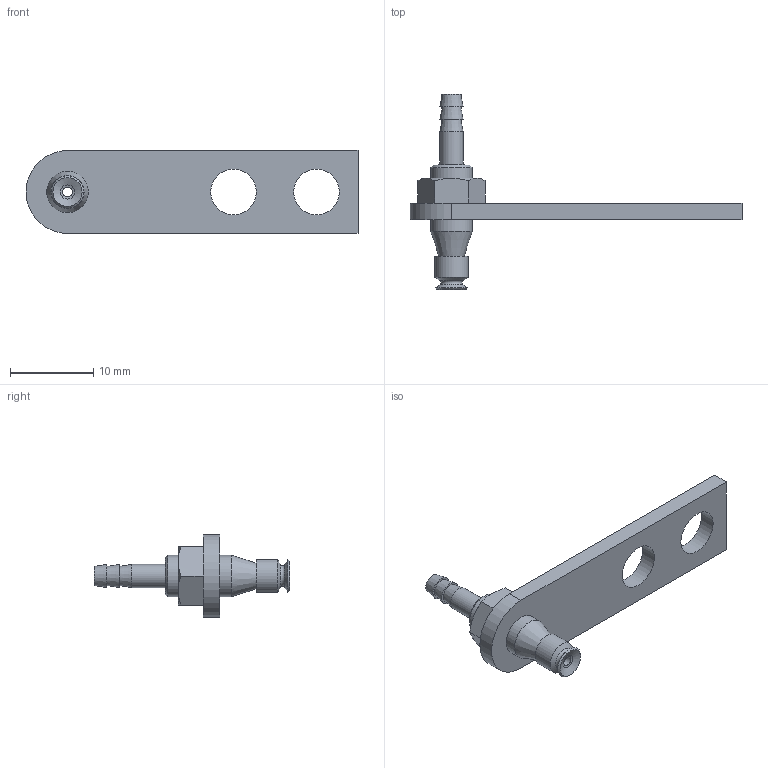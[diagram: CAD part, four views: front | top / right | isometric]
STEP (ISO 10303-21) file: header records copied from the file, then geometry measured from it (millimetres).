
FILE_DESCRIPTION(('STEP AP203'),'1');
FILE_NAME('.stp','2025-04-07T01:22:29',(' '),(' '),'Spatial InterOp 3D',' ',' ');
FILE_SCHEMA(('CONFIG_CONTROL_DESIGN'));
Length unit declared in the file: millimetre
Products named in the file (5): BBPFTK-3.5A-※; PF_K-Mounting plate; NUT-3.5A; PFTK-1.5A; BPFG-3.5A-※
Assembly tree (4 placements, depth 2):
  BBPFTK-3.5A-※
    PF_K-Mounting plate
    NUT-3.5A
    PFTK-1.5A
    BPFG-3.5A-※
Bounding box: 40 x 23.5 x 10 mm (x, y, z)
Volume: 981.1 mm3; surface area: 1570.2 mm2
Topology: 4 solids, 4 shells, 63 faces, 126 edges, 77 vertices
Faces by surface type: plane 23, cone 17, cylinder 14, torus 8, bspline 1
Full cylindrical faces by diameter (mm): 1.2 x2, 2 x2, 2.8 x1, 3 x2, 4 x1, 4.459 x1, 5 x2, 5.5 x2
Entity records: 1801 total; most frequent: CARTESIAN_POINT 359, DIRECTION 266, ORIENTED_EDGE 178, AXIS2_PLACEMENT_3D 122, EDGE_LOOP 114, EDGE_CURVE 89, FACE_OUTER_BOUND 85, VERTEX_POINT 73
